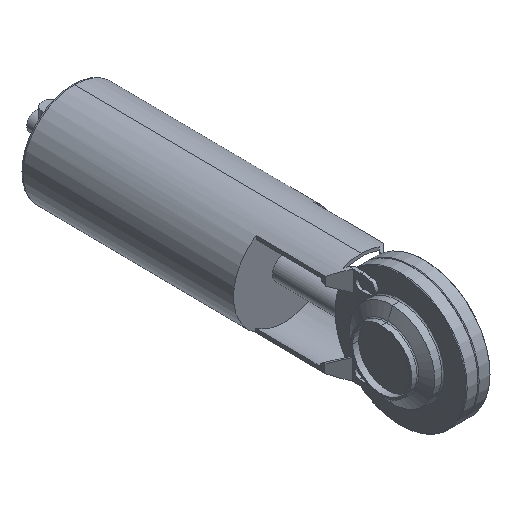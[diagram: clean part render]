
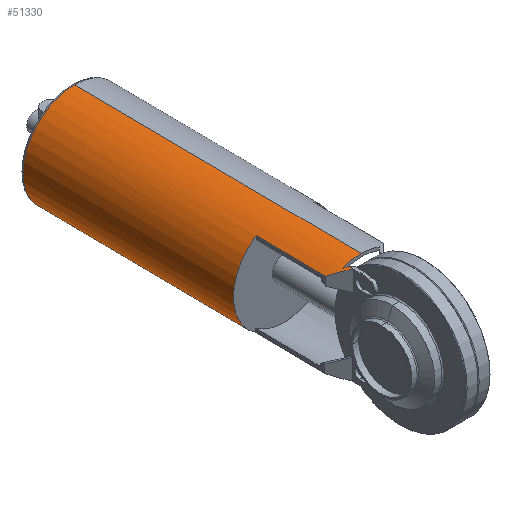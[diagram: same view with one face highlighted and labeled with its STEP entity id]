
A CAD part, isometric view. The second image highlights one B-rep face of the part: STEP entity #51330.
In plain terms, the highlighted cylindrical face has radius 42.5 mm (diameter 85 mm), a partial arc.
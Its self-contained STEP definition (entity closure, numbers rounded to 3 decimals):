
#1610=CARTESIAN_POINT('',(-63.381,-188.914,
-44.596));
#1620=VERTEX_POINT('',#1610);
#1650=CARTESIAN_POINT('',(-28.306,-212.914,
-44.596));
#1660=DIRECTION('',(0.,0.,1.));
#1670=DIRECTION('',(1.,0.,0.));
#1680=AXIS2_PLACEMENT_3D('',#1650,#1660,#1670);
#1690=CIRCLE('',#1680,42.5);
#1700=CARTESIAN_POINT('',(6.769,-188.914,
-44.596));
#1710=VERTEX_POINT('',#1700);
#1720=EDGE_CURVE('',#1710,#1620,#1690,.T.);
#2150=CARTESIAN_POINT('',(12.314,-200.414,
24.897));
#2160=VERTEX_POINT('',#2150);
#2190=CARTESIAN_POINT('',(12.314,-200.414,
-241.458));
#2200=DIRECTION('',(0.,0.,1.));
#2210=VECTOR('',#2200,1.);
#2220=LINE('',#2190,#2210);
#4630=CARTESIAN_POINT('',(12.314,-200.414,
21.362));
#4640=VERTEX_POINT('',#4630);
#4670=CARTESIAN_POINT('',(-28.306,-212.914,
33.862));
#4680=DIRECTION('',(0.,-0.707,-0.707));
#4690=DIRECTION('',(0.,0.707,-0.707));
#4700=AXIS2_PLACEMENT_3D('',#4670,#4680,#4690);
#4710=ELLIPSE('',#4700,60.104,42.5);
#4720=CARTESIAN_POINT('',(11.437,-197.856,
18.804));
#4730=VERTEX_POINT('',#4720);
#4740=EDGE_CURVE('',#4730,#4640,#4710,.T.);
#5210=CARTESIAN_POINT('',(6.769,-188.914,
13.397));
#5220=VERTEX_POINT('',#5210);
#5500=CARTESIAN_POINT('',(6.769,-188.914,
-241.458));
#5510=DIRECTION('',(0.,0.,1.));
#5520=VECTOR('',#5510,1.);
#5530=LINE('',#5500,#5520);
#5540=EDGE_CURVE('',#1710,#5220,#5530,.T.);
#14060=CARTESIAN_POINT('',(-28.306,-212.914,
18.804));
#14070=DIRECTION('',(0.,0.,1.));
#14080=DIRECTION('',(1.,0.,0.));
#14090=AXIS2_PLACEMENT_3D('',#14060,#14070,#14080);
#14100=CIRCLE('',#14090,42.5);
#14110=CARTESIAN_POINT('',(14.194,-212.914,
18.804));
#14120=VERTEX_POINT('',#14110);
#14130=EDGE_CURVE('',#14120,#4730,#14100,.T.);
#17790=EDGE_CURVE('',#4640,#2160,#2220,.T.);
#17910=CARTESIAN_POINT('',(-28.306,-212.914,
37.397));
#17920=DIRECTION('',(0.,0.707,0.707));
#17930=DIRECTION('',(0.,-0.707,0.707));
#17940=AXIS2_PLACEMENT_3D('',#17910,#17920,#17930);
#17950=ELLIPSE('',#17940,60.104,42.5);
#17960=EDGE_CURVE('',#2160,#5220,#17950,.T.);
#20880=CARTESIAN_POINT('',(-69.613,-202.914,
26.514));
#20890=VERTEX_POINT('',#20880);
#22840=CARTESIAN_POINT('',(-63.381,-188.914,
-241.458));
#22850=DIRECTION('',(0.,0.,1.));
#22860=VECTOR('',#22850,1.);
#22870=LINE('',#22840,#22860);
#22880=CARTESIAN_POINT('',(-63.381,-188.914,
13.397));
#22890=VERTEX_POINT('',#22880);
#22900=EDGE_CURVE('',#1620,#22890,#22870,.T.);
#23660=CARTESIAN_POINT('',(14.194,-212.914,
-44.596));
#23670=DIRECTION('',(0.,0.,1.));
#23680=VECTOR('',#23670,1.);
#23690=LINE('',#23660,#23680);
#23700=CARTESIAN_POINT('',(14.194,-212.914,
-219.938));
#23710=VERTEX_POINT('',#23700);
#23720=EDGE_CURVE('',#23710,#14120,#23690,.T.);
#23740=CARTESIAN_POINT('',(-28.306,-212.914,
-219.938));
#23750=DIRECTION('',(0.,0.,-1.));
#23760=DIRECTION('',(0.,-1.,0.));
#23770=AXIS2_PLACEMENT_3D('',#23740,#23750,#23760);
#23780=CIRCLE('',#23770,42.5);
#23830=CARTESIAN_POINT('',(-70.806,-212.914,
-219.938));
#23840=VERTEX_POINT('',#23830);
#23870=CARTESIAN_POINT('',(-70.806,-212.914,
-44.596));
#23880=DIRECTION('',(0.,0.,1.));
#23890=VECTOR('',#23880,1.);
#23900=LINE('',#23870,#23890);
#23910=CARTESIAN_POINT('',(-70.806,-212.914,
18.804));
#23920=VERTEX_POINT('',#23910);
#23930=EDGE_CURVE('',#23840,#23920,#23900,.T.);
#23950=CARTESIAN_POINT('',(-28.306,-212.914,
18.804));
#23960=DIRECTION('',(0.,0.,1.));
#23970=DIRECTION('',(-1.,0.,0.));
#23980=AXIS2_PLACEMENT_3D('',#23950,#23960,#23970);
#23990=CIRCLE('',#23980,42.5);
#24160=CARTESIAN_POINT('',(-69.45,-202.267,
26.749));
#24170=VERTEX_POINT('',#24160);
#24240=CARTESIAN_POINT('',(-69.613,-202.914,
27.397));
#24250=VERTEX_POINT('',#24240);
#24280=CARTESIAN_POINT('',(-28.306,-212.914,
37.397));
#24290=DIRECTION('',(0.,0.707,0.707));
#24300=DIRECTION('',(0.,0.707,-0.707));
#24310=AXIS2_PLACEMENT_3D('',#24280,#24290,#24300);
#24320=ELLIPSE('',#24310,60.104,42.5);
#24330=EDGE_CURVE('',#24170,#24250,#24320,.T.);
#24430=CARTESIAN_POINT('',(-28.306,-212.914,
387.871));
#24440=DIRECTION('',(-0.994,0.,0.113));
#24450=DIRECTION('',(-0.113,0.,-0.994));
#24460=AXIS2_PLACEMENT_3D('',#24430,#24440,#24450);
#24470=ELLIPSE('',#24460,375.431,42.5);
#24480=CARTESIAN_POINT('',(-68.926,-200.414,
31.352));
#24490=VERTEX_POINT('',#24480);
#24500=EDGE_CURVE('',#24490,#24170,#24470,.T.);
#26550=CARTESIAN_POINT('',(-68.926,-200.414,
-241.458));
#26560=DIRECTION('',(0.,0.,1.));
#26570=VECTOR('',#26560,1.);
#26580=LINE('',#26550,#26570);
#26590=CARTESIAN_POINT('',(-68.926,-200.414,
24.897));
#26600=VERTEX_POINT('',#26590);
#26610=EDGE_CURVE('',#26600,#24490,#26580,.T.);
#27990=CARTESIAN_POINT('',(-69.613,-202.914,
23.862));
#28000=VERTEX_POINT('',#27990);
#28030=CARTESIAN_POINT('',(-69.613,-202.914,
-241.458));
#28040=DIRECTION('',(0.,0.,1.));
#28050=VECTOR('',#28040,1.);
#28060=LINE('',#28030,#28050);
#28070=EDGE_CURVE('',#28000,#20890,#28060,.T.);
#29940=CARTESIAN_POINT('',(-28.306,-212.914,
37.397));
#29950=DIRECTION('',(0.,-0.707,-0.707));
#29960=DIRECTION('',(0.,-0.707,0.707));
#29970=AXIS2_PLACEMENT_3D('',#29940,#29950,#29960);
#29980=ELLIPSE('',#29970,60.104,42.5);
#29990=EDGE_CURVE('',#26600,#22890,#29980,.T.);
#30250=CARTESIAN_POINT('',(-68.049,-197.856,
18.804));
#30260=VERTEX_POINT('',#30250);
#30290=CARTESIAN_POINT('',(-28.306,-212.914,
33.862));
#30300=DIRECTION('',(0.,-0.707,-0.707));
#30310=DIRECTION('',(0.,-0.707,0.707));
#30320=AXIS2_PLACEMENT_3D('',#30290,#30300,#30310);
#30330=ELLIPSE('',#30320,60.104,42.5);
#30340=EDGE_CURVE('',#28000,#30260,#30330,.T.);
#30800=EDGE_CURVE('',#30260,#23920,#23990,.T.);
#40060=CARTESIAN_POINT('',(-69.613,-202.914,
-44.596));
#40070=DIRECTION('',(0.,0.,1.));
#40080=VECTOR('',#40070,1.);
#40090=LINE('',#40060,#40080);
#40100=EDGE_CURVE('',#20890,#24250,#40090,.T.);
#48220=CARTESIAN_POINT('',(-28.306,-170.414,
-219.938));
#48230=VERTEX_POINT('',#48220);
#48240=EDGE_CURVE('',#48230,#23710,#23780,.T.);
#51060=CARTESIAN_POINT('',(-28.306,-212.914,
-44.596));
#51070=DIRECTION('',(0.,0.,1.));
#51080=DIRECTION('',(-1.,0.,0.));
#51090=AXIS2_PLACEMENT_3D('',#51060,#51070,#51080);
#51100=CYLINDRICAL_SURFACE('',#51090,42.5);
#51110=EDGE_CURVE('',#23840,#48230,#23780,.T.);
#51120=ORIENTED_EDGE('',*,*,#51110,.F.);
#51130=ORIENTED_EDGE('',*,*,#48240,.F.);
#51140=ORIENTED_EDGE('',*,*,#23720,.F.);
#51150=ORIENTED_EDGE('',*,*,#14130,.F.);
#51160=ORIENTED_EDGE('',*,*,#4740,.F.);
#51170=ORIENTED_EDGE('',*,*,#17790,.F.);
#51180=ORIENTED_EDGE('',*,*,#17960,.F.);
#51190=ORIENTED_EDGE('',*,*,#5540,.T.);
#51200=ORIENTED_EDGE('',*,*,#1720,.F.);
#51210=ORIENTED_EDGE('',*,*,#22900,.F.);
#51220=ORIENTED_EDGE('',*,*,#29990,.T.);
#51230=ORIENTED_EDGE('',*,*,#26610,.F.);
#51240=ORIENTED_EDGE('',*,*,#24500,.F.);
#51250=ORIENTED_EDGE('',*,*,#24330,.F.);
#51260=ORIENTED_EDGE('',*,*,#40100,.T.);
#51270=ORIENTED_EDGE('',*,*,#28070,.T.);
#51280=ORIENTED_EDGE('',*,*,#30340,.F.);
#51290=ORIENTED_EDGE('',*,*,#30800,.F.);
#51300=ORIENTED_EDGE('',*,*,#23930,.T.);
#51310=EDGE_LOOP('',(#51300,#51290,#51280,#51270,#51260,#51250,#51240,
#51230,#51220,#51210,#51200,#51190,#51180,#51170,#51160,#51150,#51140,
#51130,#51120));
#51320=FACE_OUTER_BOUND('',#51310,.T.);
#51330=ADVANCED_FACE('',(#51320),#51100,.T.);
